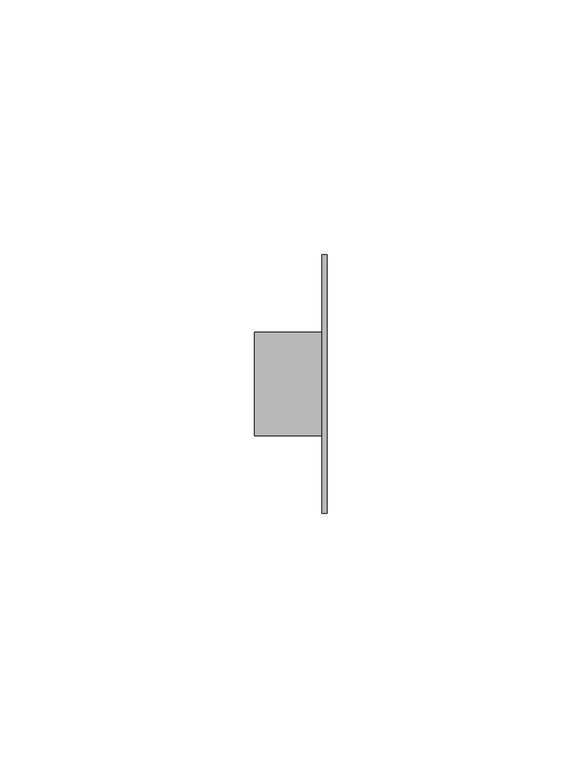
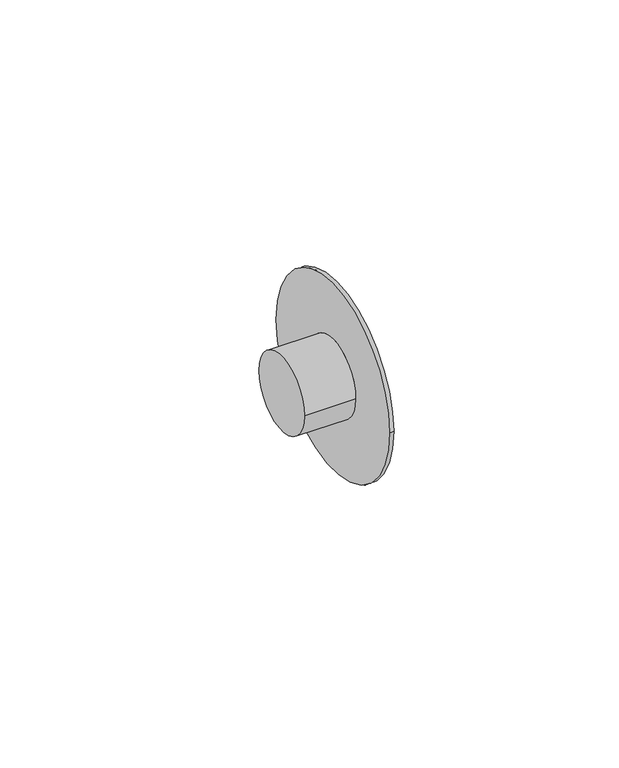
"""IFC4 building model written with IfcOpenShell, lengths in millimetres: pipe fitting geometry, Bucha de redução reta - Soldada - CU : Padrão."""

from ifc_helpers import new_model, si_unit, frame, origin, place, context, project, spatial, circle_curve, source, transform, mapped, element, save
from ifc_brep_helpers import plane_surface, cylinder_surface, advanced_brep


def pipe_fitting_f06330f8(model_context):
    return source(origin(), model_context, "Body", "AdvancedBrep", [
        advanced_brep(
        [(0.0, -10.1155, 0.0), (0.0, 10.1155, 0.0), (13.1535, -10.1155, 0.0), (13.1535, 10.1155, 0.0), (14.1535, -25.3, 0.0), (14.1535, 25.3, 0.0), (13.1535, 25.3, 0.0), (13.1535, -25.3, 0.0)],
        [
            (0, 1, circle_curve(frame((0.0, 0.0, 0.0), z_axis=(-1.0, 0.0, 0.0), x_axis=(0.0, 1.0, 0.0)), 10.1155)),
            (1, 0, circle_curve(frame((0.0, 0.0, 0.0), z_axis=(-1.0, 0.0, 0.0), x_axis=(0.0, 1.0, 0.0)), 10.1155)),
            (0, 2),
            (2, 3, circle_curve(frame((13.1535, 0.0, 0.0), z_axis=(-1.0, 0.0, 0.0), x_axis=(0.0, 1.0, 0.0)), 10.1155)),
            (3, 1),
            (3, 2, circle_curve(frame((13.1535, 0.0, 0.0), z_axis=(-1.0, 0.0, 0.0), x_axis=(0.0, 1.0, 0.0)), 10.1155)),
            (4, 5, circle_curve(frame((14.1535, 0.0, 0.0), z_axis=(1.0, 0.0, 0.0), x_axis=(0.0, 1.0, 0.0)), 25.3)),
            (5, 4, circle_curve(frame((14.1535, 0.0, 0.0), z_axis=(1.0, 0.0, 0.0), x_axis=(0.0, 1.0, 0.0)), 25.3)),
            (6, 7, circle_curve(frame((13.1535, 0.0, 0.0), z_axis=(1.0, 0.0, 0.0), x_axis=(0.0, 1.0, 0.0)), 25.3)),
            (7, 4),
            (5, 6),
            (7, 6, circle_curve(frame((13.1535, 0.0, 0.0), z_axis=(1.0, 0.0, 0.0), x_axis=(0.0, 1.0, 0.0)), 25.3)),
        ],
        [
            plane_surface(frame((0.0, 0.0, 0.0), z_axis=(-1.0, 0.0, 0.0), x_axis=(0.0, 0.0, 1.0))),
            cylinder_surface(frame((0.0, 0.0, 0.0), z_axis=(-1.0, 0.0, 0.0), x_axis=(0.0, 1.0, 0.0)), 10.1155),
            plane_surface(frame((14.1535, 0.0, 0.0), z_axis=(1.0, 0.0, 0.0), x_axis=(0.0, 0.0, 1.0))),
            cylinder_surface(frame((13.1535, 0.0, 0.0), z_axis=(-1.0, 0.0, 0.0), x_axis=(0.0, 1.0, 0.0)), 25.3),
            plane_surface(frame((13.1535, 0.0, 0.0), z_axis=(-1.0, 0.0, 0.0), x_axis=(0.0, 0.0, 1.0))),
        ],
        [
            (0, [[1, 2]]),
            (1, [[-1, 3, 4, 5]]),
            (1, [[-2, -5, 6, -3]]),
            (2, [[7, 8]]),
            (3, [[9, 10, -8, 11]]),
            (3, [[12, -11, -7, -10]]),
            (4, [[-9, -12], [-4, -6]]),
        ],
    ),
    ])


if __name__ == "__main__":
    model = new_model("IFC4")
    model_context = context("Model", 3, world=origin())
    ifc_project = project(units=[si_unit("LENGTHUNIT", "METRE", prefix="MILLI")], contexts=[model_context])
    site = spatial("IfcSite", under=ifc_project)
    building = spatial("IfcBuilding", under=site)
    placement = place(None, origin())
    pipe_fitting_shape = pipe_fitting_f06330f8(model_context)
    element("IfcPipeFitting", 1, ObjectType="Bucha de redução reta - Soldada - CU : Padrão", at=placement, inside=building, context=model_context, shape_type="MappedRepresentation", body=[
        mapped(pipe_fitting_shape, transform((0.0, 0.0, 0.0), x_axis=(1.0, 0.0, 0.0), y_axis=(0.0, 1.0, 0.0), z_axis=(0.0, 0.0, 1.0))),
    ])
    save(model, "model.ifc")
